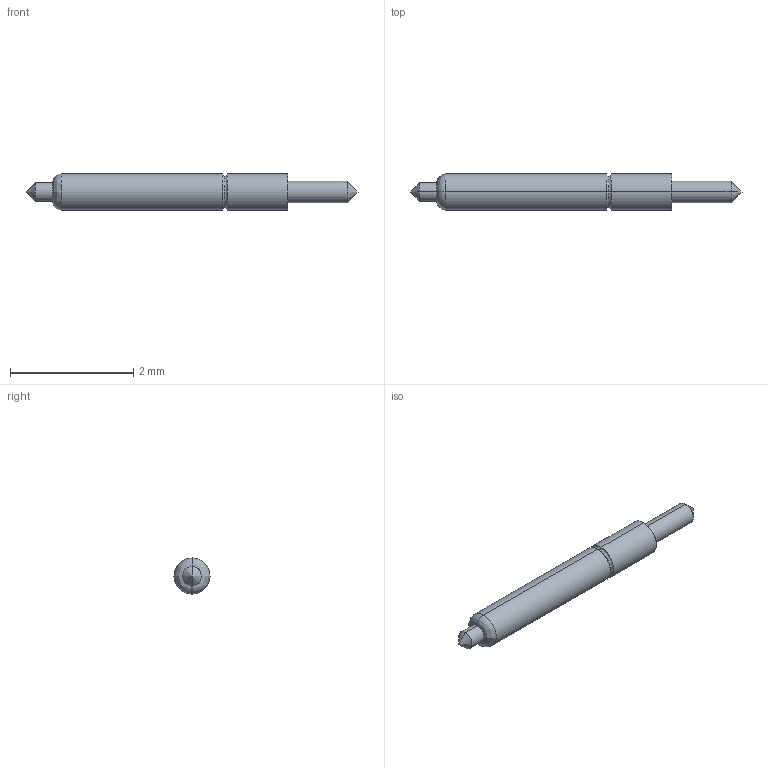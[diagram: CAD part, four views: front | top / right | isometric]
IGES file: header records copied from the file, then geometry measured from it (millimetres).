
Start section: SolidWorks IGES file using analytic representation for surfaces
Global section: file name: Z:\probe solid model mockups\Solidworks models\IGES Files\CSP8-15 IGES files\CSP8-15BB RECD.IGS; native system: SolidWorks 2006 by SolidWorks Corporation; preprocessor: SolidWorks 2006 by SolidWorks Corporation; author: tsakatani; date: 080108.152044; units: inch
Bounding box: 5.38 x 0.58 x 0.58 mm (x, y, z)
Surface area: 8.9 mm2 (no closed solid volume)
Topology: 0 solids, 0 shells, 19 faces, 104 edges, 100 vertices
Faces by surface type: revolution 12, bspline 7
